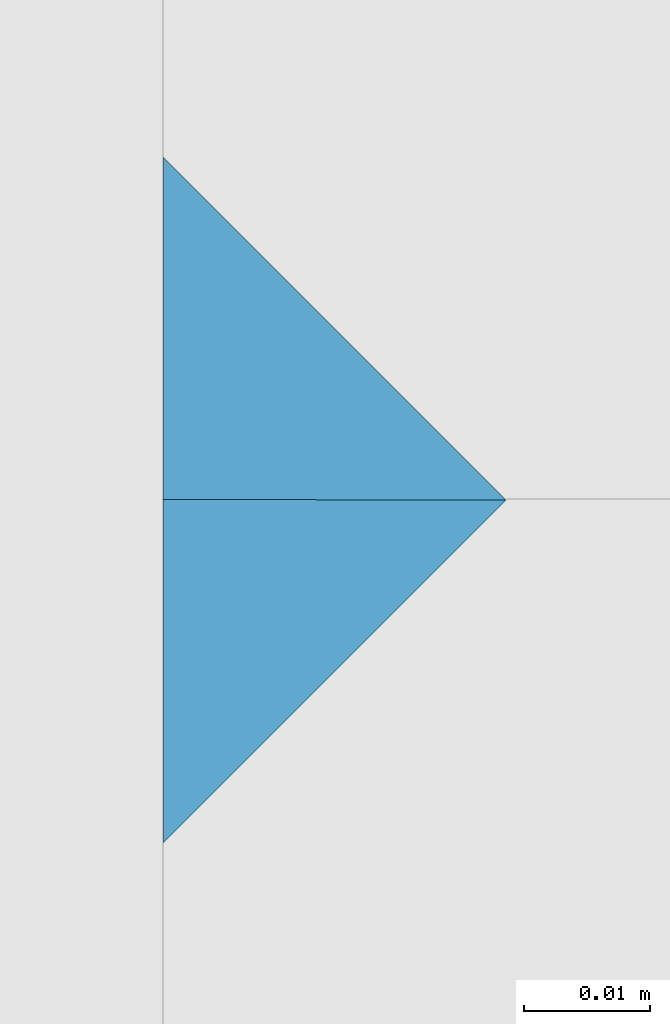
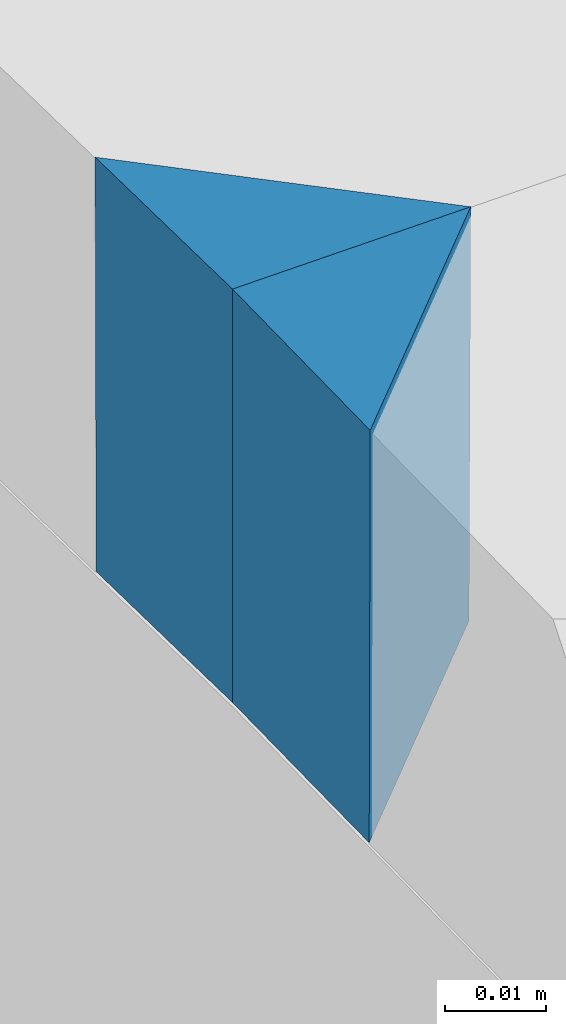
# One storey, part 50 of 52: 2 beams.
"""IFC2X3 building model written with IfcOpenShell, lengths in millimetres."""

import ifcopenshell
import ifcopenshell.guid

model = None  # the IFC model being written
_history = None  # IfcOwnerHistory: only IFC2X3 demands one
_inside = {}  # id of a spatial element -> (the spatial element, [elements in it])
_under = {}  # id of a project, library or spatial element -> (it, [spatial elements below it])
_declared = {}  # id of a project -> (the project, [libraries it declares])
_typed = {}  # id of a type object -> (the type object, [elements of that type])
_made_of = {}  # id of a material, layer set ... -> (it, [elements and type objects made of it])


def new_model(schema):
    """Start an empty IFC model of exactly this schema.

    Asked for "IFC4X3", IfcOpenShell would pick the latest addendum, in which some entities
    have other attributes; the version numbers below select the first issue.
    IFC2X3 requires an IfcOwnerHistory on every rooted entity: one is made here for all.
    """
    global model, _history
    if schema == "IFC4X3":
        model = ifcopenshell.file(schema_version=(4, 3, 0, 0))
    else:
        model = ifcopenshell.file(schema=schema)
    _inside.clear()
    _under.clear()
    _declared.clear()
    _typed.clear()
    _made_of.clear()
    _history = None
    if model.schema == "IFC2X3":
        org = make("IfcOrganization", Name="unknown")
        user = make(
            "IfcPersonAndOrganization",
            ThePerson=make("IfcPerson", FamilyName="unknown"),
            TheOrganization=org,
        )
        app = make(
            "IfcApplication",
            ApplicationDeveloper=org,
            Version="unknown",
            ApplicationFullName="unknown",
            ApplicationIdentifier="unknown",
        )
        _history = make(
            "IfcOwnerHistory",
            OwningUser=user,
            OwningApplication=app,
            ChangeAction="ADDED",
            CreationDate=0,
        )
    return model


def make(cls, **values):
    """One entity of the class cls with the attributes given. An attribute that is None is left unset."""
    return model.create_entity(
        cls, **{name: value for name, value in values.items() if value is not None}
    )


def rooted(cls, **values):
    """An entity with a GlobalId (a new one), such as an element, a storey or a relation."""
    return make(cls, GlobalId=ifcopenshell.guid.new(), OwnerHistory=_history, **values)


def si_unit(unit_type, name, prefix=None):
    """IfcSIUnit, for example si_unit("LENGTHUNIT", "METRE", prefix="MILLI")."""
    return make("IfcSIUnit", UnitType=unit_type, Prefix=prefix, Name=name)


def assignment(units):
    """IfcUnitAssignment: the units of a project."""
    return None if units is None else make("IfcUnitAssignment", Units=units)


def point(xyz):
    """IfcCartesianPoint."""
    return None if xyz is None else make("IfcCartesianPoint", Coordinates=xyz)


def direction(xyz):
    """IfcDirection."""
    return None if xyz is None else make("IfcDirection", DirectionRatios=xyz)


def frame(location, z_axis=None, x_axis=None):
    """IfcAxis2Placement3D, a coordinate frame: its origin and axes. An axis left out is left unset."""
    return make(
        "IfcAxis2Placement3D",
        Location=point(location),
        Axis=direction(z_axis),
        RefDirection=direction(x_axis),
    )


def origin_with_axes():
    """The frame at (0, 0, 0) with the z axis (0, 0, 1) and the x axis (1, 0, 0) written out."""
    return frame((0.0, 0.0, 0.0), z_axis=(0.0, 0.0, 1.0), x_axis=(1.0, 0.0, 0.0))


def place(relative_to, where):
    """IfcLocalPlacement: puts the frame where relative to a parent placement (None: the world)."""
    return make(
        "IfcLocalPlacement", PlacementRelTo=relative_to, RelativePlacement=where
    )


def context(
    kind, dimensions, precision=None, world=None, true_north=None, identifier=None
):
    """IfcGeometricRepresentationContext, for example the 3D "Model" context."""
    return make(
        "IfcGeometricRepresentationContext",
        ContextIdentifier=identifier,
        ContextType=kind,
        CoordinateSpaceDimension=dimensions,
        Precision=precision,
        WorldCoordinateSystem=world,
        TrueNorth=true_north,
    )


def subcontext(parent, identifier, kind, view, scale=None):
    """IfcGeometricRepresentationSubContext, for example "Body" below "Model"."""
    return make(
        "IfcGeometricRepresentationSubContext",
        ContextIdentifier=identifier,
        ContextType=kind,
        ParentContext=parent,
        TargetScale=scale,
        TargetView=view,
    )


def project(units=None, contexts=None):
    """IfcProject with its units and contexts."""
    return rooted(
        "IfcProject",
        Name="project",
        RepresentationContexts=contexts,
        UnitsInContext=assignment(units),
    )


def spatial(cls, under=None, at=None, **own):
    """A site, building, storey or space (cls), placed at a placement, below another one or the project."""
    s = rooted(cls, ObjectPlacement=at, **own)
    if under is not None:
        _under.setdefault(under.id(), (under, []))[1].append(s)
    return s


def faces_of(points, faces, orient=None, outer=None):
    """IfcFace entities. A face is a list of loops; a loop is a list of indices into points, from 0.

    orient and outer hold one flag for each loop. By default every Orientation is true, the
    first loop of a face is its IfcFaceOuterBound and the others are IfcFaceBound.
    """
    made = []
    for i, loops in enumerate(faces):
        bounds = []
        for j, loop in enumerate(loops):
            is_outer = j == 0 if outer is None else outer[i][j]
            bounds.append(
                make(
                    "IfcFaceOuterBound" if is_outer else "IfcFaceBound",
                    Bound=make("IfcPolyLoop", Polygon=[points[k] for k in loop]),
                    Orientation=True if orient is None else orient[i][j],
                )
            )
        made.append(make("IfcFace", Bounds=bounds))
    return made


def faceted_brep(points, faces, orient=None, outer=None, voids=None):
    """IfcFacetedBrep: a solid bounded by flat faces; with voids (closed shells), ...WithVoids."""
    shared = [point(p) for p in points]
    hull = make("IfcClosedShell", CfsFaces=faces_of(shared, faces, orient, outer))
    if voids is None:
        return make("IfcFacetedBrep", Outer=hull)
    return make(
        "IfcFacetedBrepWithVoids",
        Outer=hull,
        Voids=[
            make(cls, CfsFaces=faces_of(shared, fs, o, b)) for cls, fs, o, b in voids
        ],
    )


def shape(context_of_items, identifier, shape_type, items):
    """IfcShapeRepresentation: the items that make up one representation, for example the "Body"."""
    return make(
        "IfcShapeRepresentation",
        ContextOfItems=context_of_items,
        RepresentationIdentifier=identifier,
        RepresentationType=shape_type,
        Items=items,
    )


def material(Name=None, Category=None):
    """IfcMaterial."""
    return make("IfcMaterial", Name=Name, Category=Category)


def made_of(thing, what):
    """Note that an element or type object is made of a material, layer set ...; save() writes the relation."""
    if what is not None:
        _made_of.setdefault(what.id(), (what, []))[1].append(thing)
    return thing


def type_object(cls, material=None, **own):
    """A type object (cls), such as IfcWallType, which elements share."""
    return made_of(rooted(cls, **own), material)


def element(
    cls,
    number,
    at=None,
    inside=None,
    cuts=None,
    type_object=None,
    material=None,
    context=None,
    identifier="Body",
    shape_type=None,
    held_by="IfcProductDefinitionShape",
    body=None,
    shapes=None,
    **own,
):
    """One element of the class cls, such as IfcWall. Its Tag is "e" and its number.

    at: its placement. inside: the storey or other place that contains it. cuts: it is an
    opening in that element (IfcRelVoidsElement). A single representation is given by context,
    identifier, shape_type and body (its items); several are given by shapes. held_by: the class
    of the entity that holds the representations. save() writes the other relations.
    """
    e = rooted(cls, Tag="e%d" % number, ObjectPlacement=at, **own)
    if body is not None:
        shapes = [shape(context, identifier, shape_type, body)]
    if shapes is not None:
        e.Representation = make(held_by, Representations=shapes)
    if inside is not None:
        _inside.setdefault(inside.id(), (inside, []))[1].append(e)
    if cuts is not None:
        rooted(
            "IfcRelVoidsElement", RelatingBuildingElement=cuts, RelatedOpeningElement=e
        )
    if type_object is not None:
        _typed.setdefault(type_object.id(), (type_object, []))[1].append(e)
    return made_of(e, material)


def aggregate(whole, parts):
    """IfcRelAggregates: a whole, such as a stair, and the parts it consists of."""
    return rooted("IfcRelAggregates", RelatingObject=whole, RelatedObjects=parts)


def save(model, path):
    """Write the relations noted so far, then the file.

    IfcRelAggregates (storeys below a building ...), IfcRelContainedInSpatialStructure (elements
    in a storey), IfcRelDefinesByType, IfcRelAssociatesMaterial and IfcRelDeclares: one each for
    every whole, place, type object, material and project.
    """
    for whole, parts in _under.values():
        aggregate(whole, parts)
    for where, things in _inside.values():
        rooted(
            "IfcRelContainedInSpatialStructure",
            RelatedElements=things,
            RelatingStructure=where,
        )
    for kind, things in _typed.values():
        rooted("IfcRelDefinesByType", RelatedObjects=things, RelatingType=kind)
    for what, things in _made_of.values():
        rooted("IfcRelAssociatesMaterial", RelatedObjects=things, RelatingMaterial=what)
    for by, libraries in _declared.values():
        rooted("IfcRelDeclares", RelatingContext=by, RelatedDefinitions=libraries)
    model.write(path)


model = new_model("IFC2X3")

# Units and contexts
model_context = context("Model", 3, precision=1e-05, world=origin_with_axes())
body_context = subcontext(model_context, "Body", "Model", "MODEL_VIEW")
ifc_project = project(units=[si_unit("LENGTHUNIT", "METRE", prefix="MILLI"), si_unit("AREAUNIT", "SQUARE_METRE"), si_unit("VOLUMEUNIT", "CUBIC_METRE"), si_unit("MASSUNIT", "GRAM", prefix="KILO"), si_unit("TIMEUNIT", "SECOND"), si_unit("PLANEANGLEUNIT", "RADIAN"), si_unit("SOLIDANGLEUNIT", "STERADIAN"), si_unit("THERMODYNAMICTEMPERATUREUNIT", "DEGREE_CELSIUS"), si_unit("LUMINOUSINTENSITYUNIT", "LUMEN")], contexts=[model_context])

# Site, building, storey
site_placement = place(None, origin_with_axes())
site = spatial("IfcSite", under=ifc_project, at=site_placement, Name="Undefined", CompositionType="ELEMENT")
building_placement = place(site_placement, origin_with_axes())
building = spatial("IfcBuilding", under=site, at=building_placement, Name="Undefined", CompositionType="ELEMENT")
storey_placement = place(building_placement, origin_with_axes())
storey = spatial("IfcBuildingStorey", under=building, at=storey_placement, Name="Undefined", CompositionType="ELEMENT", Elevation=0.0)

# Beams
ifc_material = material(Name="TIMBER/Timber_Undefined")
beam_type = type_object("IfcBeamType", Name="50*50", PredefinedType="NOTDEFINED")
beam_1_placement = place(storey_placement, frame((-608.702506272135, 2364.50010032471, 3174.2192060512), z_axis=(0.707226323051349, -0.706981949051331, -0.00272978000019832), x_axis=(-0.70680318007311, -0.706948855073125, -0.0255456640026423)))
element("IfcBeam", 1, at=beam_1_placement, inside=storey, type_object=beam_type, material=ifc_material, Name="BEAM", ObjectType="50*50", context=body_context, shape_type="Brep", body=[
    faceted_brep([(-26.4222658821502, -25.0, 24.9999999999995), (-7.16966926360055, -24.9999999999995, 5.70994576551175), (12.1319333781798, -25.0, 24.9999999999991), (-25.0086637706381, 24.9999999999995, 24.9999999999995), (13.2730225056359, 25.0, 25.0), (-5.89215044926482, 24.9999999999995, 5.84629382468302)], [[[0, 1, 2]], [[3, 0, 2, 4]], [[3, 4, 5]], [[0, 3, 5, 1]], [[4, 2, 1, 5]]]),
])
beam_2_placement = place(storey_placement, frame((-608.702506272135, 2365.49989967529, 3174.2192060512), z_axis=(0.707226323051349, 0.706981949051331, -0.00272978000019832), x_axis=(-0.70680318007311, 0.706948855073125, -0.0255456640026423)))
element("IfcBeam", 2, at=beam_2_placement, inside=storey, type_object=beam_type, material=ifc_material, Name="BEAM", ObjectType="50*50", context=body_context, shape_type="Brep", body=[
    faceted_brep([(-26.4154158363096, 25.0000000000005, 24.9999999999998), (12.1319333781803, 25.0, 24.9999999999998), (-7.14705769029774, 25.0, 5.7325438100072), (-25.0011704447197, -25.0, 24.9999999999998), (-5.86935275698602, -25.0, 5.86907787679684), (13.2730225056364, -25.0, 24.9999999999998)], [[[0, 1, 2]], [[3, 0, 2, 4]], [[3, 4, 5]], [[0, 3, 5, 1]], [[4, 2, 1, 5]]]),
])

save(model, "model.ifc")
